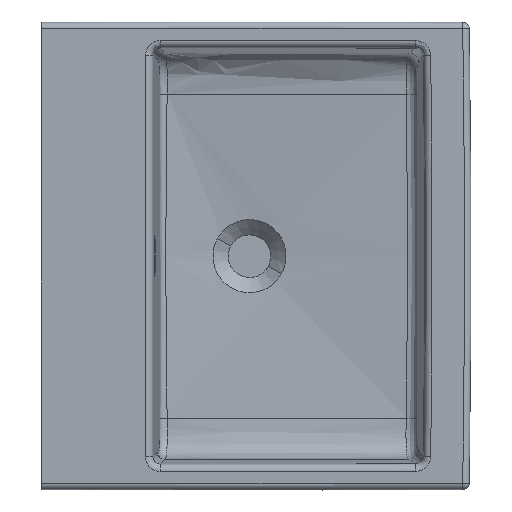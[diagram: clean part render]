
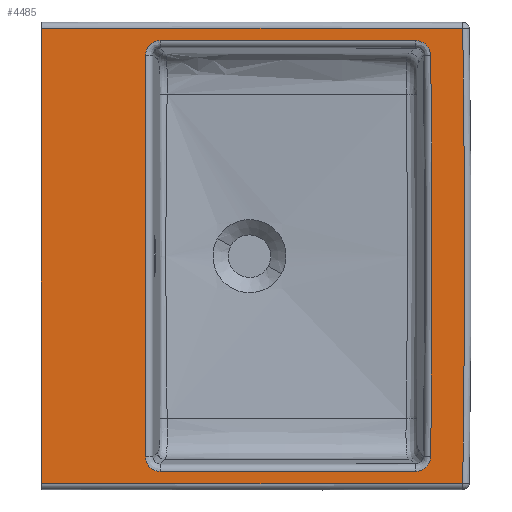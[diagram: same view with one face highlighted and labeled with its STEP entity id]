
A CAD part, top view. The second image highlights one B-rep face of the part: STEP entity #4485.
In plain terms, the highlighted planar face has unit normal (0, 0, 1).
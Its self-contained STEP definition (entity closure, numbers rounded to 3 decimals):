
#3827=CARTESIAN_POINT('Vertex',(179.504,-232.449,110.)) ;
#3834=CARTESIAN_POINT('Vertex',(-96.422,-232.639,110.)) ;
#3837=CARTESIAN_POINT('Axis2P3D Location',(5.,52649.75,110.)) ;
#4039=CARTESIAN_POINT('Vertex',(195.734,216.388,110.)) ;
#4046=CARTESIAN_POINT('Vertex',(195.734,-216.389,110.)) ;
#4049=CARTESIAN_POINT('Axis2P3D Location',(-15389.,0.,110.)) ;
#4132=CARTESIAN_POINT('Vertex',(-96.422,232.639,110.)) ;
#4139=CARTESIAN_POINT('Vertex',(179.503,232.449,110.)) ;
#4142=CARTESIAN_POINT('Axis2P3D Location',(5.,-52649.75,110.)) ;
#4163=CARTESIAN_POINT('Vertex',(-112.331,-216.7,110.)) ;
#4175=CARTESIAN_POINT('Vertex',(-112.331,216.7,110.)) ;
#4178=CARTESIAN_POINT('Line Origine',(-112.331,-0.003,110.)) ;
#4273=CARTESIAN_POINT('Control Point',(-96.422,-232.639,110.)) ;
#4274=CARTESIAN_POINT('Control Point',(-97.43,-232.637,110.)) ;
#4275=CARTESIAN_POINT('Control Point',(-98.439,-232.556,110.)) ;
#4276=CARTESIAN_POINT('Control Point',(-99.441,-232.396,110.)) ;
#4277=CARTESIAN_POINT('Control Point',(-101.9,-231.799,110.)) ;
#4278=CARTESIAN_POINT('Control Point',(-104.208,-230.725,110.)) ;
#4279=CARTESIAN_POINT('Control Point',(-105.509,-229.919,110.)) ;
#4280=CARTESIAN_POINT('Control Point',(-107.892,-228.01,110.)) ;
#4281=CARTESIAN_POINT('Control Point',(-109.76,-225.595,110.)) ;
#4282=CARTESIAN_POINT('Control Point',(-110.543,-224.283,110.)) ;
#4283=CARTESIAN_POINT('Control Point',(-111.559,-222.002,110.)) ;
#4284=CARTESIAN_POINT('Control Point',(-112.114,-219.583,110.)) ;
#4285=CARTESIAN_POINT('Control Point',(-112.259,-218.626,110.)) ;
#4286=CARTESIAN_POINT('Control Point',(-112.331,-217.663,110.)) ;
#4287=CARTESIAN_POINT('Control Point',(-112.331,-216.7,110.)) ;
#4379=CARTESIAN_POINT('Control Point',(195.734,-216.389,110.)) ;
#4380=CARTESIAN_POINT('Control Point',(195.727,-216.9,110.)) ;
#4381=CARTESIAN_POINT('Control Point',(195.7,-217.412,110.)) ;
#4382=CARTESIAN_POINT('Control Point',(195.654,-217.923,110.)) ;
#4383=CARTESIAN_POINT('Control Point',(195.388,-219.948,110.)) ;
#4384=CARTESIAN_POINT('Control Point',(194.809,-221.927,110.)) ;
#4385=CARTESIAN_POINT('Control Point',(194.2,-223.355,110.)) ;
#4386=CARTESIAN_POINT('Control Point',(192.658,-226.032,110.)) ;
#4387=CARTESIAN_POINT('Control Point',(190.529,-228.277,110.)) ;
#4388=CARTESIAN_POINT('Control Point',(189.341,-229.263,110.)) ;
#4389=CARTESIAN_POINT('Control Point',(186.783,-230.917,110.)) ;
#4390=CARTESIAN_POINT('Control Point',(183.926,-231.935,110.)) ;
#4391=CARTESIAN_POINT('Control Point',(182.464,-232.274,110.)) ;
#4392=CARTESIAN_POINT('Control Point',(180.982,-232.444,110.)) ;
#4393=CARTESIAN_POINT('Control Point',(179.504,-232.449,110.)) ;
#4402=CARTESIAN_POINT('Axis2P3D Location',(0.,0.,110.)) ;
#4407=CARTESIAN_POINT('Line Origine',(-225.,0.,110.)) ;
#4411=CARTESIAN_POINT('Vertex',(-225.,245.268,110.)) ;
#4413=CARTESIAN_POINT('Vertex',(-225.,-245.268,110.)) ;
#4416=CARTESIAN_POINT('Axis2P3D Location',(5.,52649.75,110.)) ;
#4420=CARTESIAN_POINT('Vertex',(230.342,-245.288,110.)) ;
#4423=CARTESIAN_POINT('Axis2P3D Location',(-15389.,0.,110.)) ;
#4427=CARTESIAN_POINT('Vertex',(230.342,245.288,110.)) ;
#4430=CARTESIAN_POINT('Axis2P3D Location',(5.,-52649.75,110.)) ;
#4442=CARTESIAN_POINT('Control Point',(-112.331,216.7,110.)) ;
#4443=CARTESIAN_POINT('Control Point',(-112.331,217.708,110.)) ;
#4444=CARTESIAN_POINT('Control Point',(-112.252,218.717,110.)) ;
#4445=CARTESIAN_POINT('Control Point',(-112.093,219.719,110.)) ;
#4446=CARTESIAN_POINT('Control Point',(-111.5,222.179,110.)) ;
#4447=CARTESIAN_POINT('Control Point',(-110.431,224.49,110.)) ;
#4448=CARTESIAN_POINT('Control Point',(-109.627,225.792,110.)) ;
#4449=CARTESIAN_POINT('Control Point',(-107.724,228.179,110.)) ;
#4450=CARTESIAN_POINT('Control Point',(-105.312,230.052,110.)) ;
#4451=CARTESIAN_POINT('Control Point',(-104.001,230.838,110.)) ;
#4452=CARTESIAN_POINT('Control Point',(-101.722,231.857,110.)) ;
#4453=CARTESIAN_POINT('Control Point',(-99.304,232.417,110.)) ;
#4454=CARTESIAN_POINT('Control Point',(-98.348,232.564,110.)) ;
#4455=CARTESIAN_POINT('Control Point',(-97.384,232.638,110.)) ;
#4456=CARTESIAN_POINT('Control Point',(-96.422,232.639,110.)) ;
#4459=CARTESIAN_POINT('Control Point',(179.503,232.449,110.)) ;
#4460=CARTESIAN_POINT('Control Point',(180.015,232.447,110.)) ;
#4461=CARTESIAN_POINT('Control Point',(180.527,232.426,110.)) ;
#4462=CARTESIAN_POINT('Control Point',(181.038,232.384,110.)) ;
#4463=CARTESIAN_POINT('Control Point',(183.066,232.14,110.)) ;
#4464=CARTESIAN_POINT('Control Point',(185.051,231.582,110.)) ;
#4465=CARTESIAN_POINT('Control Point',(186.485,230.988,110.)) ;
#4466=CARTESIAN_POINT('Control Point',(189.179,229.474,110.)) ;
#4467=CARTESIAN_POINT('Control Point',(191.447,227.369,110.)) ;
#4468=CARTESIAN_POINT('Control Point',(192.445,226.191,110.)) ;
#4469=CARTESIAN_POINT('Control Point',(194.126,223.651,110.)) ;
#4470=CARTESIAN_POINT('Control Point',(195.175,220.805,110.)) ;
#4471=CARTESIAN_POINT('Control Point',(195.528,219.347,110.)) ;
#4472=CARTESIAN_POINT('Control Point',(195.714,217.867,110.)) ;
#4473=CARTESIAN_POINT('Control Point',(195.734,216.388,110.)) ;
#3838=DIRECTION('Axis2P3D Direction',(0.,-0.,1.)) ;
#4050=DIRECTION('Axis2P3D Direction',(0.,0.,1.)) ;
#4143=DIRECTION('Axis2P3D Direction',(-0.,0.,1.)) ;
#4179=DIRECTION('Vector Direction',(0.,1.,0.)) ;
#4403=DIRECTION('Axis2P3D Direction',(0.,-0.,1.)) ;
#4404=DIRECTION('Axis2P3D XDirection',(0.,1.,0.)) ;
#4408=DIRECTION('Vector Direction',(0.,-1.,0.)) ;
#4417=DIRECTION('Axis2P3D Direction',(0.,-0.,1.)) ;
#4424=DIRECTION('Axis2P3D Direction',(0.,-0.,1.)) ;
#4431=DIRECTION('Axis2P3D Direction',(0.,-0.,1.)) ;
#3839=AXIS2_PLACEMENT_3D('Circle Axis2P3D',#3837,#3838,$) ;
#4051=AXIS2_PLACEMENT_3D('Circle Axis2P3D',#4049,#4050,$) ;
#4144=AXIS2_PLACEMENT_3D('Circle Axis2P3D',#4142,#4143,$) ;
#4405=AXIS2_PLACEMENT_3D('Plane Axis2P3D',#4402,#4403,#4404) ;
#4418=AXIS2_PLACEMENT_3D('Circle Axis2P3D',#4416,#4417,$) ;
#4425=AXIS2_PLACEMENT_3D('Circle Axis2P3D',#4423,#4424,$) ;
#4432=AXIS2_PLACEMENT_3D('Circle Axis2P3D',#4430,#4431,$) ;
#4436=ORIENTED_EDGE('',*,*,#4415,.T.) ;
#4437=ORIENTED_EDGE('',*,*,#4422,.T.) ;
#4438=ORIENTED_EDGE('',*,*,#4429,.T.) ;
#4439=ORIENTED_EDGE('',*,*,#4434,.T.) ;
#4476=ORIENTED_EDGE('',*,*,#4053,.T.) ;
#4477=ORIENTED_EDGE('',*,*,#4394,.T.) ;
#4478=ORIENTED_EDGE('',*,*,#3841,.T.) ;
#4479=ORIENTED_EDGE('',*,*,#4288,.T.) ;
#4480=ORIENTED_EDGE('',*,*,#4182,.T.) ;
#4481=ORIENTED_EDGE('',*,*,#4457,.T.) ;
#4482=ORIENTED_EDGE('',*,*,#4146,.T.) ;
#4483=ORIENTED_EDGE('',*,*,#4474,.T.) ;
#4484=FACE_BOUND('',#4475,.T.) ;
#4180=VECTOR('Line Direction',#4179,1.) ;
#4409=VECTOR('Line Direction',#4408,1.) ;
#4485=ADVANCED_FACE('Hauptk\X2\00F6\X0\rper',(#4440,#4484),#4406,.T.) ;
#4272=B_SPLINE_CURVE_WITH_KNOTS('',5,(#4273,#4274,#4275,#4276,#4277,#4278,#4279,#4280,#4281,#4282,#4283,#4284,#4285,#4286,#4287),.UNSPECIFIED.,.F.,.U.,(6,3,3,3,6),(26.674,32.001,39.964,47.918,53.003),.UNSPECIFIED.) ;
#4378=B_SPLINE_CURVE_WITH_KNOTS('',5,(#4379,#4380,#4381,#4382,#4383,#4384,#4385,#4386,#4387,#4388,#4389,#4390,#4391,#4392,#4393),.UNSPECIFIED.,.F.,.U.,(6,3,3,3,6),(28.281,31.067,39.362,47.584,55.637),.UNSPECIFIED.) ;
#4441=B_SPLINE_CURVE_WITH_KNOTS('',5,(#4442,#4443,#4444,#4445,#4446,#4447,#4448,#4449,#4450,#4451,#4452,#4453,#4454,#4455,#4456),.UNSPECIFIED.,.F.,.U.,(6,3,3,3,6),(26.674,32.001,39.964,47.918,53.003),.UNSPECIFIED.) ;
#4458=B_SPLINE_CURVE_WITH_KNOTS('',5,(#4459,#4460,#4461,#4462,#4463,#4464,#4465,#4466,#4467,#4468,#4469,#4470,#4471,#4472,#4473),.UNSPECIFIED.,.F.,.U.,(6,3,3,3,6),(28.25,31.033,39.318,47.53,55.573),.UNSPECIFIED.) ;
#3840=CIRCLE('generated circle',#3839,52882.487) ;
#4052=CIRCLE('generated circle',#4051,15586.237) ;
#4145=CIRCLE('generated circle',#4144,52882.487) ;
#4419=CIRCLE('generated circle',#4418,52895.518) ;
#4426=CIRCLE('generated circle',#4425,15621.268) ;
#4433=CIRCLE('generated circle',#4432,52895.518) ;
#3841=EDGE_CURVE('',#3828,#3835,#3840,.F.) ;
#4053=EDGE_CURVE('',#4040,#4047,#4052,.F.) ;
#4146=EDGE_CURVE('',#4133,#4140,#4145,.F.) ;
#4182=EDGE_CURVE('',#4164,#4176,#4181,.T.) ;
#4288=EDGE_CURVE('',#3835,#4164,#4272,.T.) ;
#4394=EDGE_CURVE('',#4047,#3828,#4378,.T.) ;
#4415=EDGE_CURVE('',#4412,#4414,#4410,.T.) ;
#4422=EDGE_CURVE('',#4414,#4421,#4419,.T.) ;
#4429=EDGE_CURVE('',#4421,#4428,#4426,.T.) ;
#4434=EDGE_CURVE('',#4428,#4412,#4433,.T.) ;
#4457=EDGE_CURVE('',#4176,#4133,#4441,.T.) ;
#4474=EDGE_CURVE('',#4140,#4040,#4458,.T.) ;
#4435=EDGE_LOOP('',(#4436,#4437,#4438,#4439)) ;
#4475=EDGE_LOOP('',(#4476,#4477,#4478,#4479,#4480,#4481,#4482,#4483)) ;
#4440=FACE_OUTER_BOUND('',#4435,.T.) ;
#4181=LINE('Line',#4178,#4180) ;
#4410=LINE('Line',#4407,#4409) ;
#4406=PLANE('Plane',#4405) ;
#3828=VERTEX_POINT('',#3827) ;
#3835=VERTEX_POINT('',#3834) ;
#4040=VERTEX_POINT('',#4039) ;
#4047=VERTEX_POINT('',#4046) ;
#4133=VERTEX_POINT('',#4132) ;
#4140=VERTEX_POINT('',#4139) ;
#4164=VERTEX_POINT('',#4163) ;
#4176=VERTEX_POINT('',#4175) ;
#4412=VERTEX_POINT('',#4411) ;
#4414=VERTEX_POINT('',#4413) ;
#4421=VERTEX_POINT('',#4420) ;
#4428=VERTEX_POINT('',#4427) ;
